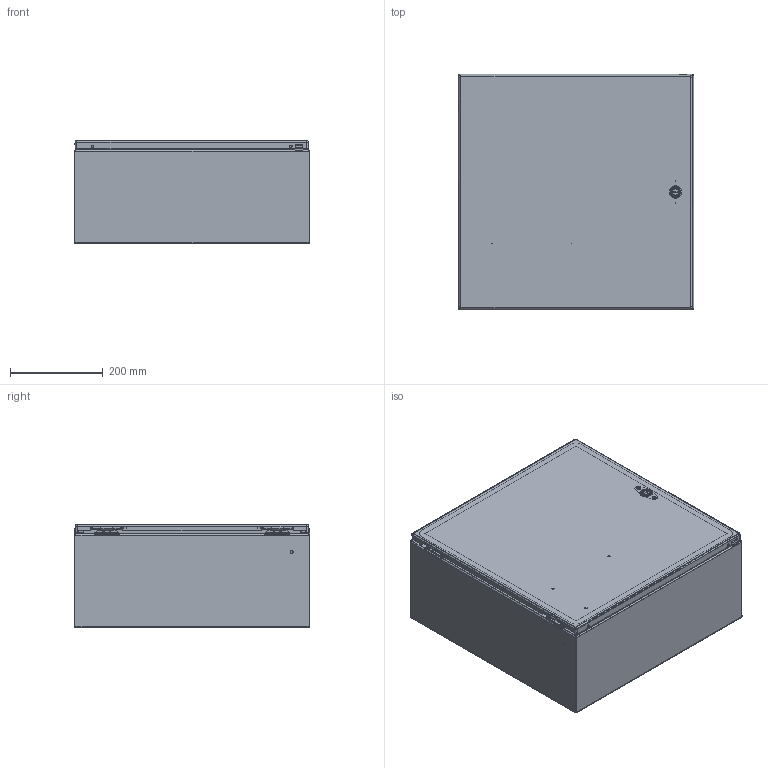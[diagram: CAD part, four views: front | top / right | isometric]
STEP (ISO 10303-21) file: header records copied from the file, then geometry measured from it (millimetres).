
FILE_DESCRIPTION (( 'STEP AP203' ), '1' );
FILE_NAME ('csd20208.STEP', '2012-05-09T16:58:38', ( 'User' ), ( 'Pentair Inc' ), 'SwSTEP 2.0', 'SolidWorks 2010', '' );
FILE_SCHEMA (( 'CONFIG_CONTROL_DESIGN' ));
Products named in the file (27): csd20208; 87934526; 87934364_default; 23271001_After Weld; 87937925_assy; 87937965_weldment; 87937911; 99401225; 87931362_87931362; 64101001; 64201001; 87541994_Installed Height; 87541995; 64202001; 64210001; 64203001; 87927840_87927840; 87932903; 64138001; 89057562; 87543027; 89076399; 89076193; 89056623; 87929507; 87929767; 87929769_Installed on Pin
Assembly tree (38 placements, depth 4):
  csd20208
    87934526
      23271001_After Weld  x4
      87934364_default
      99401225
    87543027  x2
    89076399  x2
      89076193
      89056623
    87929507  x2
      87929767
      87929769_Installed on Pin
    87937925_assy
      87937965_weldment
        87931362_87931362  x4
        87937911
        99401225
      87932903  x2
      89057562
      64101001
        64202001
        87927840_87927840
        87541995
        87541994_Installed Height
        64201001
        64210001
        64203001
      64138001  x2
Bounding box: 508 x 508.73 x 223.9 mm (x, y, z)
Volume: 1411598.8 mm3; surface area: 2140803.8 mm2
Topology: 35 solids, 35 shells, 1689 faces, 4125 edges, 2490 vertices
Faces by surface type: plane 652, cylinder 547, bspline 288, torus 106, cone 88, sphere 8
Entity records: 46223 total; most frequent: CARTESIAN_POINT 16302, ORIENTED_EDGE 5874, DIRECTION 5117, EDGE_CURVE 2937, AXIS2_PLACEMENT_3D 1833, VERTEX_POINT 1802, LINE 1451, VECTOR 1451
